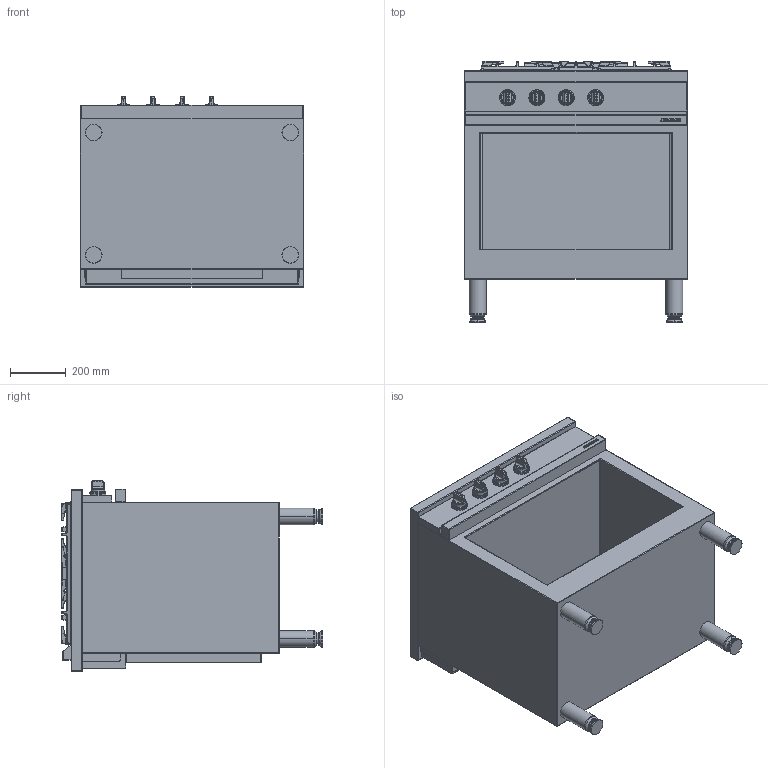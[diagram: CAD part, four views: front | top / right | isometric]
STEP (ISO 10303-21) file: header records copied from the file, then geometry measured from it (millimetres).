
FILE_DESCRIPTION((''),'2;1');
FILE_NAME('CMG840_EXPORT_STEP_ASM','2017-11-22T',('r.avril'),(''),'PRO/ENGINEER BY PARAMETRIC TECHNOLOGY CORPORATION, 2014200','PRO/ENGINEER BY PARAMETRIC TECHNOLOGY CORPORATION, 2014200','');
FILE_SCHEMA(('AP203_CONFIGURATION_CONTROLLED_3D_DESIGN_OF_MECHANICAL_PARTS_AND_ASSEMBLIES_MIM_LF { 1 0 10303 403 2 1 2 }'));
Products named in the file (13): MODULES_AMB_800_EXPORT_STEP; TABLE_800_CLASSIQUE_4F; 3KW; 1_5KW; 4KW; 6537026; 65149005; 90000566_ASM; 6537023; 90000565_ASM; TABLE_800_CLASSIQUE_4F_ASM; MANETTE_AMB_EXPORT_STEP; CMG840_EXPORT_STEP_ASM
Assembly tree (24 placements, depth 4):
  CMG840_EXPORT_STEP_ASM
    MODULES_AMB_800_EXPORT_STEP
    TABLE_800_CLASSIQUE_4F_ASM
      TABLE_800_CLASSIQUE_4F
      3KW  x2
      1_5KW
      4KW
      90000566_ASM
        6537026
        65149005  x4
      90000565_ASM  x2
        6537023
        65149005
    MANETTE_AMB_EXPORT_STEP  x4
Bounding box: 800 x 935 x 682.5 mm (x, y, z)
Volume: 104641128.7 mm3; surface area: 6919859.4 mm2
Topology: 35 solids, 53 shells, 3304 faces, 8901 edges, 6046 vertices
Faces by surface type: bspline 1012, cylinder 1002, plane 763, cone 269, torus 120, sphere 98, extrusion 40
Entity records: 112956 total; most frequent: CARTESIAN_POINT 43506, ORIENTED_EDGE 10120, DIRECTION 9030, EDGE_CURVE 5285, PRESENTATION_STYLE_ASSIGNMENT 4815, STYLED_ITEM 4815, CURVE_STYLE 4618, VERTEX_POINT 3227
